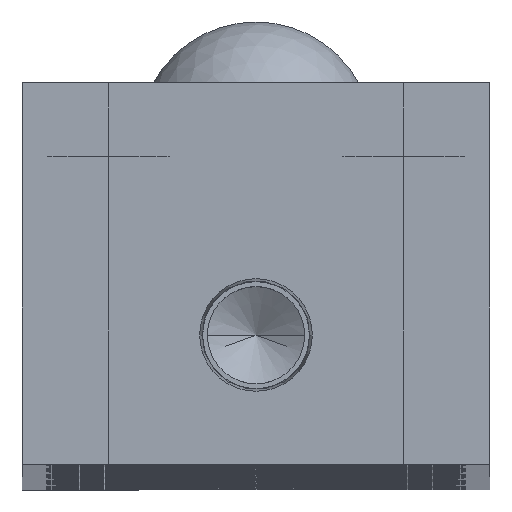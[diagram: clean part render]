
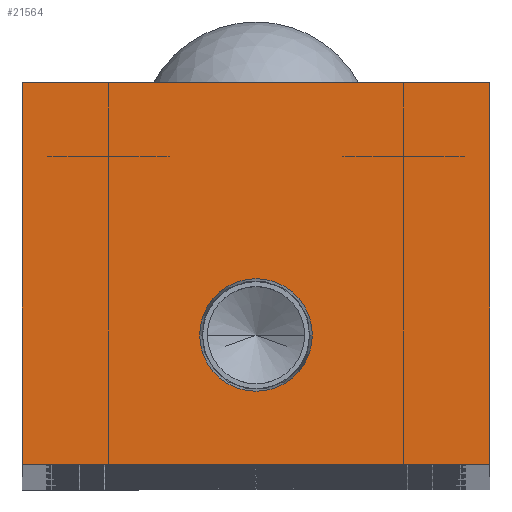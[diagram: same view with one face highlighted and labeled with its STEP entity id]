
A CAD part, top view. The second image highlights one B-rep face of the part: STEP entity #21564.
In plain terms, the highlighted planar face has unit normal (0, 0, 1).
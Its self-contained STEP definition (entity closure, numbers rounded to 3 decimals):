
#98 = CARTESIAN_POINT ( 'NONE',  ( 19., 0., 0. ) ) ;
#261 = CARTESIAN_POINT ( 'NONE',  ( 19., 31., 0. ) ) ;
#296 = VERTEX_POINT ( 'NONE', #14207 ) ;
#3587 = CARTESIAN_POINT ( 'NONE',  ( 0., 0., 0. ) ) ;
#4292 = CARTESIAN_POINT ( 'NONE',  ( 0., 10.5, 0. ) ) ;
#4923 = VERTEX_POINT ( 'NONE', #7733 ) ;
#5447 = FACE_BOUND ( 'NONE', #19432, .T. ) ;
#5714 = DIRECTION ( 'NONE',  ( -1., 0., 0. ) ) ;
#6103 = CARTESIAN_POINT ( 'NONE',  ( -19., 31., 0. ) ) ;
#6112 = LINE ( 'NONE', #26000, #9751 ) ;
#6246 = EDGE_CURVE ( 'NONE', #4923, #14030, #6112, .T. ) ;
#6443 = VECTOR ( 'NONE', #25209, 1000. ) ;
#6459 = DIRECTION ( 'NONE',  ( 1., 0., 0. ) ) ;
#7710 = DIRECTION ( 'NONE',  ( 0., -1., 0. ) ) ;
#7733 = CARTESIAN_POINT ( 'NONE',  ( 19., 0., 0. ) ) ;
#8356 = ORIENTED_EDGE ( 'NONE', *, *, #23886, .T. ) ;
#8990 = DIRECTION ( 'NONE',  ( 0., 1., 0. ) ) ;
#9658 = CARTESIAN_POINT ( 'NONE',  ( -19., 0., 0. ) ) ;
#9751 = VECTOR ( 'NONE', #8990, 1000. ) ;
#11684 = AXIS2_PLACEMENT_3D ( 'NONE', #3587, #18450, #5714 ) ;
#11837 = EDGE_CURVE ( 'NONE', #14030, #21888, #12039, .T. ) ;
#12039 = LINE ( 'NONE', #6103, #6443 ) ;
#12319 = DIRECTION ( 'NONE',  ( 0., 0., 1. ) ) ;
#12813 = DIRECTION ( 'NONE',  ( 1., 0., 0. ) ) ;
#12931 = AXIS2_PLACEMENT_3D ( 'NONE', #4292, #19141, #6459 ) ;
#13336 = VERTEX_POINT ( 'NONE', #9658 ) ;
#14030 = VERTEX_POINT ( 'NONE', #261 ) ;
#14207 = CARTESIAN_POINT ( 'NONE',  ( 4.574, 10.5, 0. ) ) ;
#15541 = CARTESIAN_POINT ( 'NONE',  ( -19., 31., 0. ) ) ;
#15662 = CIRCLE ( 'NONE', #23303, 4.574 ) ;
#16307 = VECTOR ( 'NONE', #12813, 1000. ) ;
#16756 = FACE_OUTER_BOUND ( 'NONE', #21668, .T. ) ;
#16986 = LINE ( 'NONE', #98, #16307 ) ;
#17616 = ORIENTED_EDGE ( 'NONE', *, *, #11837, .T. ) ;
#18110 = EDGE_CURVE ( 'NONE', #21888, #13336, #20058, .T. ) ;
#18450 = DIRECTION ( 'NONE',  ( 0., 0., -1. ) ) ;
#19141 = DIRECTION ( 'NONE',  ( 0., 0., 1. ) ) ;
#19148 = ORIENTED_EDGE ( 'NONE', *, *, #22281, .F. ) ;
#19391 = VECTOR ( 'NONE', #7710, 1000. ) ;
#19432 = EDGE_LOOP ( 'NONE', ( #27049, #19148 ) ) ;
#19996 = CIRCLE ( 'NONE', #12931, 4.574 ) ;
#20058 = LINE ( 'NONE', #22560, #19391 ) ;
#21564 = ADVANCED_FACE ( 'NONE', ( #5447, #16756 ), #24776, .F. ) ;
#21668 = EDGE_LOOP ( 'NONE', ( #26389, #8356, #22155, #17616 ) ) ;
#21888 = VERTEX_POINT ( 'NONE', #15541 ) ;
#22155 = ORIENTED_EDGE ( 'NONE', *, *, #6246, .T. ) ;
#22281 = EDGE_CURVE ( 'NONE', #23017, #296, #19996, .T. ) ;
#22560 = CARTESIAN_POINT ( 'NONE',  ( -19., 0., 0. ) ) ;
#22743 = EDGE_CURVE ( 'NONE', #296, #23017, #15662, .T. ) ;
#23017 = VERTEX_POINT ( 'NONE', #26091 ) ;
#23303 = AXIS2_PLACEMENT_3D ( 'NONE', #25090, #12319, #27216 ) ;
#23886 = EDGE_CURVE ( 'NONE', #13336, #4923, #16986, .T. ) ;
#24776 = PLANE ( 'NONE',  #11684 ) ;
#25090 = CARTESIAN_POINT ( 'NONE',  ( 0., 10.5, 0. ) ) ;
#25209 = DIRECTION ( 'NONE',  ( -1., 0., 0. ) ) ;
#26000 = CARTESIAN_POINT ( 'NONE',  ( 19., 31., 0. ) ) ;
#26091 = CARTESIAN_POINT ( 'NONE',  ( -4.574, 10.5, 0. ) ) ;
#26389 = ORIENTED_EDGE ( 'NONE', *, *, #18110, .T. ) ;
#27049 = ORIENTED_EDGE ( 'NONE', *, *, #22743, .F. ) ;
#27216 = DIRECTION ( 'NONE',  ( 1., 0., 0. ) ) ;
